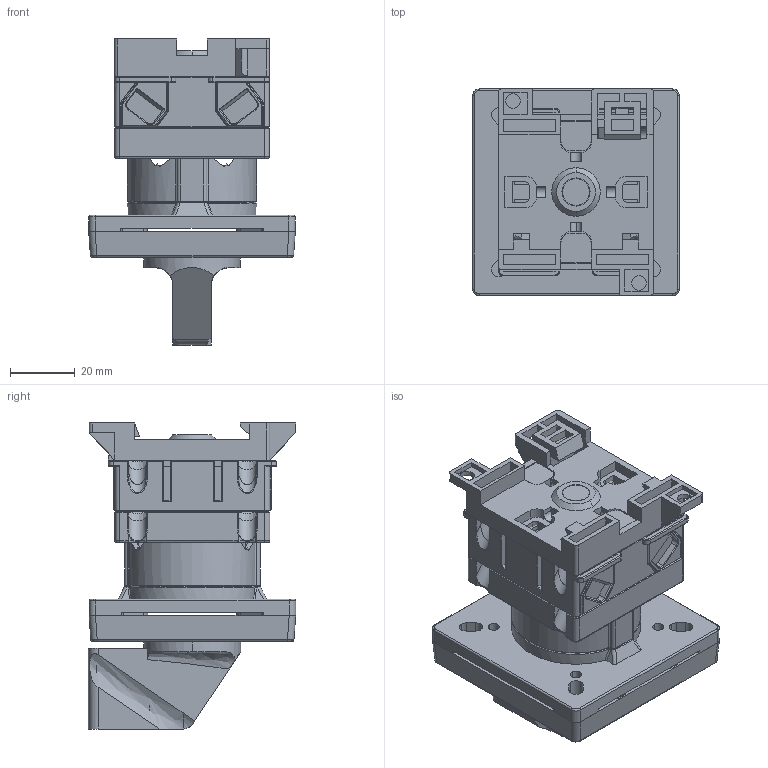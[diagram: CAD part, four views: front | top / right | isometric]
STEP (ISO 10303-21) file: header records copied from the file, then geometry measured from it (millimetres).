
FILE_DESCRIPTION (( 'STEP AP214' ), '1' );
FILE_NAME ('Ïåðåêëþ÷àòåëü 4G16,25-XXXX-U-S18-R114 1ê.STEP', '2022-12-02T13:04:49', ( '' ), ( '' ), 'SwSTEP 2.0', 'SolidWorks 2018', '' );
FILE_SCHEMA (( 'AUTOMOTIVE_DESIGN' ));
Length unit declared in the file: millimetre
Products named in the file (1): Ïåðåêëþ÷àòåëü 4G16,25-XXXX-U-S18-R114 1ê
Bounding box: 64 x 64.21 x 94.8 mm (x, y, z)
Volume: 125381.7 mm3; surface area: 79565 mm2
Topology: 12 solids, 20 shells, 2731 faces, 7199 edges, 4548 vertices
Faces by surface type: plane 1506, cylinder 889, torus 122, cone 85, bspline 69, sphere 60
Entity records: 124570 total; most frequent: CARTESIAN_POINT 27709, ORIENTED_EDGE 14300, DIRECTION 13539, EDGE_CURVE 7150, VECTOR 4721, LINE 4721, VERTEX_POINT 4536, AXIS2_PLACEMENT_3D 4409
